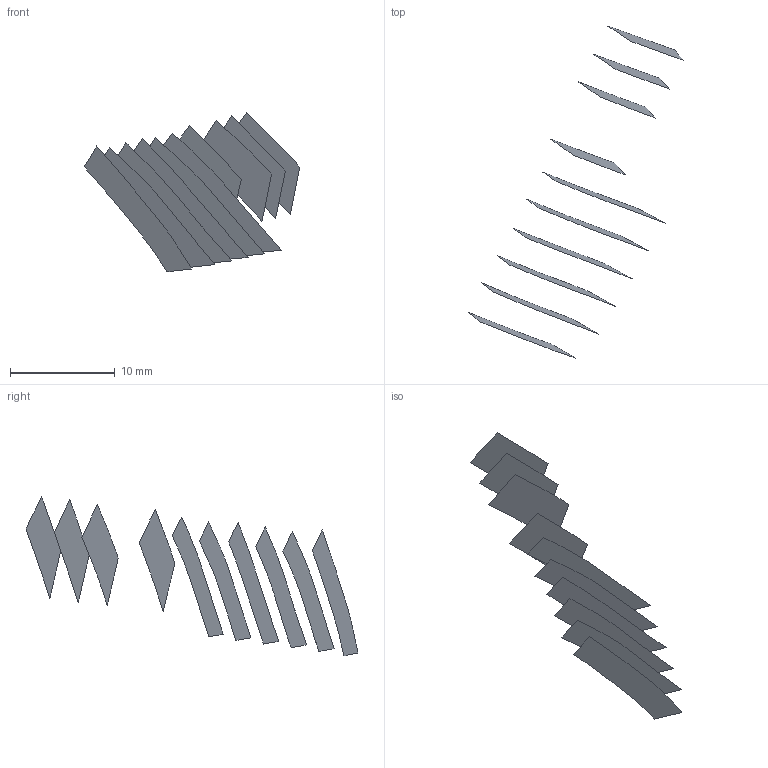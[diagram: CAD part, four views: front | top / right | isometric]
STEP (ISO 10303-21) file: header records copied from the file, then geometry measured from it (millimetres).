
FILE_DESCRIPTION(('FreeCAD Model'),'2;1');
FILE_NAME('Open CASCADE Shape Model','2022-05-22T07:50:29',('FreeCAD'),( 'FreeCAD'),'Open CASCADE STEP processor 7.5','FreeCAD','Unknown');
FILE_SCHEMA(('AUTOMOTIVE_DESIGN { 1 0 10303 214 1 1 1 1 }'));
Length unit declared in the file: millimetre
Products named in the file (11): Open CASCADE STEP translator 7.5 1; Open CASCADE STEP translator 7.5 1.1; Open CASCADE STEP translator 7.5 1.2; Open CASCADE STEP translator 7.5 1.3; Open CASCADE STEP translator 7.5 1.4; Open CASCADE STEP translator 7.5 1.5; Open CASCADE STEP translator 7.5 1.6; Open CASCADE STEP translator 7.5 1.7; Open CASCADE STEP translator 7.5 1.8; Open CASCADE STEP translator 7.5 1.9; Open CASCADE STEP translator 7.5 1.10
Assembly tree (10 placements, depth 2):
  Open CASCADE STEP translator 7.5 1
    Open CASCADE STEP translator 7.5 1.1
    Open CASCADE STEP translator 7.5 1.2
    Open CASCADE STEP translator 7.5 1.3
    Open CASCADE STEP translator 7.5 1.4
    Open CASCADE STEP translator 7.5 1.5
    Open CASCADE STEP translator 7.5 1.6
    Open CASCADE STEP translator 7.5 1.7
    Open CASCADE STEP translator 7.5 1.8
    Open CASCADE STEP translator 7.5 1.9
    Open CASCADE STEP translator 7.5 1.10
Bounding box: 20.59 x 31.7 x 15.26 mm (x, y, z)
Surface area: 348.3 mm2 (no closed solid volume)
Topology: 0 solids, 10 shells, 10 faces, 171 edges, 171 vertices
Faces by surface type: bspline 10
Entity records: 2519 total; most frequent: CARTESIAN_POINT 906, B_SPLINE_CURVE_WITH_KNOTS 342, ORIENTED_EDGE 171, EDGE_CURVE 171, VERTEX_POINT 171, SURFACE_CURVE 171, PCURVE 171, DEFINITIONAL_REPRESENTATION 171
